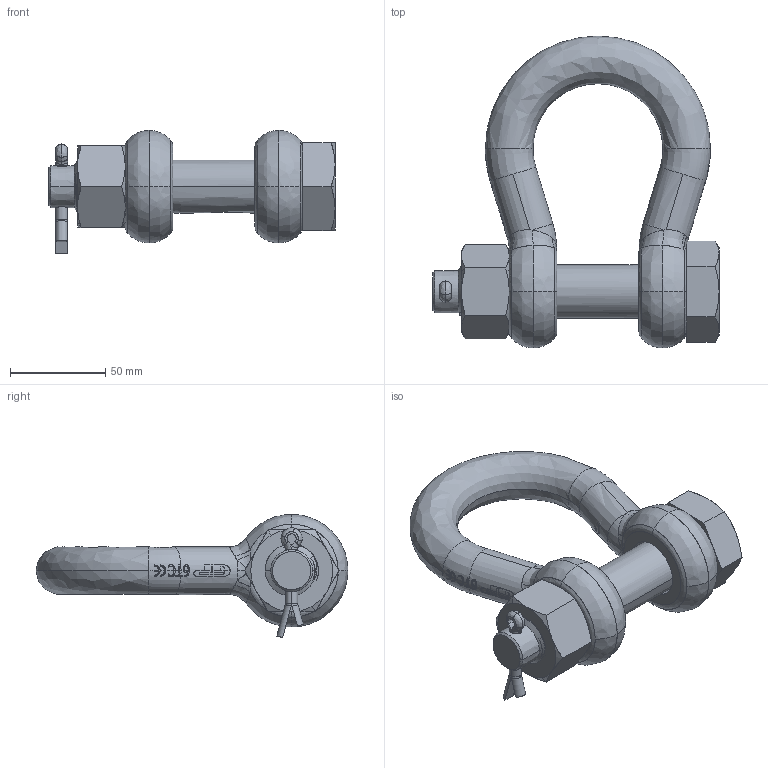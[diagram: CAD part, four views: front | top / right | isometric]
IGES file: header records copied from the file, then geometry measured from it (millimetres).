
Start section: START RECORD GO HERE.
Global section: file name: 8,5.igs; native system: Solidworks 2009                             ; preprocessor: Solidworks 2009            ; author: v.b.; organization: P4; date: 20090807.082505; units: millimetre
Bounding box: 150 x 163.5 x 64.55 mm (x, y, z)
Surface area: 67103 mm2 (no closed solid volume)
Topology: 0 solids, 0 shells, 704 faces, 4281 edges, 4273 vertices
Faces by surface type: bspline 307, plane 231, revolution 166
